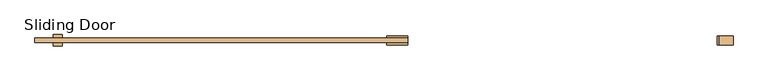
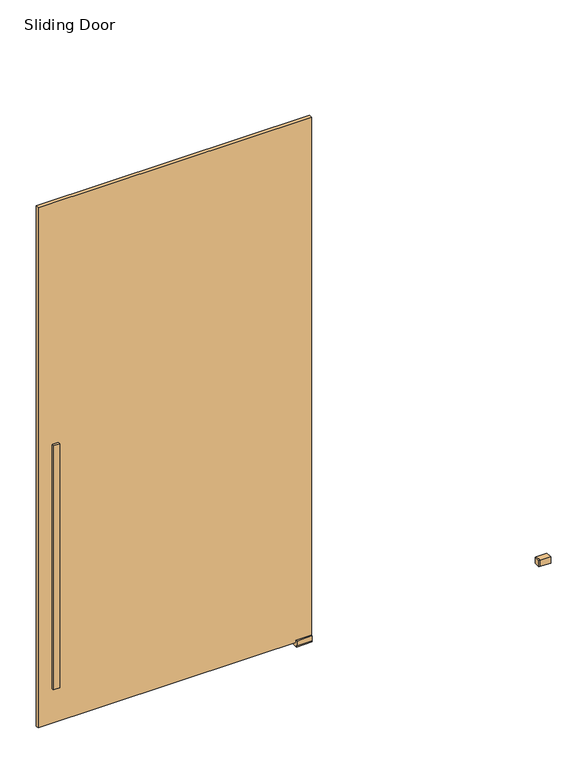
"""IFC4 building model written with IfcOpenShell, lengths in millimetres: door geometry, 2019_EN_Panel_Klein_Nature_Single-Door : Sliding Door."""

from ifc_helpers import new_model, si_unit, frame, origin, origin_with_axes, place, context, project, spatial, polyline, outline, extrude, source, transform, mapped, element, save


def sliding_door_46a8e8dc(model_context):
    return source(origin(), model_context, "Body", "SweptSolid", [
        extrude(outline(polyline([(-500.0000001, -5.7), (560.0000001, -5.7), (560.0000001, -17.7), (-500.0000001, -17.7), (-500.0000001, -5.7)])), frame((0.0, 0.0, 15.0), z_axis=(0.0, 0.0, 1.0), x_axis=(1.0, 0.0, 0.0)), (0.0, 0.0, 1.0), 2133.1000015),
        extrude(outline(polyline([(1445.0000002, 0.8), (1485.0000002, 0.8), (1485.0000002, -24.2), (1445.0000002, -24.2), (1445.0000002, 0.8)])), origin_with_axes(), (0.0, 0.0, 1.0), 25.0),
        extrude(outline(polyline([(-5.7, 25.0), (0.8, 25.0), (0.8, 5.0), (-0.2, 5.0), (-0.2, 0.0), (-23.2, 0.0), (-23.2, 5.0), (-24.2, 5.0), (-24.2, 25.0), (-17.7, 25.0), (-17.7, 15.0), (-5.7, 15.0), (-5.7, 25.0)])), frame((500.0000001, 0.0, 0.0), z_axis=(1.0, 0.0, 0.0), x_axis=(0.0, 1.0, 0.0)), (0.0, 0.0, 1.0), 60.0),
        extrude(outline(polyline([(1440.0000002, -24.2), (1440.0000002, 0.8), (1445.0000002, 0.8), (1445.0000002, -24.2), (1440.0000002, -24.2)])), origin_with_axes(), (0.0, 0.0, 1.0), 25.0),
        extrude(outline(polyline([(-422.7500001, -5.7), (-447.2500001, -5.7), (-447.2500001, 4.3), (-422.7500001, 4.3), (-422.7500001, -5.7)])), frame((0.0, 0.0, 159.05), z_axis=(0.0, 0.0, 1.0), x_axis=(1.0, 0.0, 0.0)), (0.0, 0.0, 1.0), 1000.0),
        extrude(outline(polyline([(-422.7500001, -27.7), (-447.2500001, -27.7), (-447.2500001, -17.7), (-422.7500001, -17.7), (-422.7500001, -27.7)])), frame((0.0, 0.0, 159.05), z_axis=(0.0, 0.0, 1.0), x_axis=(1.0, 0.0, 0.0)), (0.0, 0.0, 1.0), 1000.0),
    ])


if __name__ == "__main__":
    model = new_model("IFC4")
    model_context = context("Model", 3, world=origin())
    ifc_project = project(units=[si_unit("LENGTHUNIT", "METRE", prefix="MILLI")], contexts=[model_context])
    site = spatial("IfcSite", under=ifc_project)
    building = spatial("IfcBuilding", under=site)
    placement = place(None, origin())
    sliding_door_shape = sliding_door_46a8e8dc(model_context)
    element("IfcDoor", 1, ObjectType="2019_EN_Panel_Klein_Nature_Single-Door : Sliding Door", at=placement, inside=building, context=model_context, shape_type="MappedRepresentation", body=[
        mapped(sliding_door_shape, transform((0.0, 0.0, 0.0), x_axis=(1.0, 0.0, 0.0), y_axis=(0.0, 1.0, 0.0), z_axis=(0.0, 0.0, 1.0))),
    ])
    save(model, "model.ifc")
